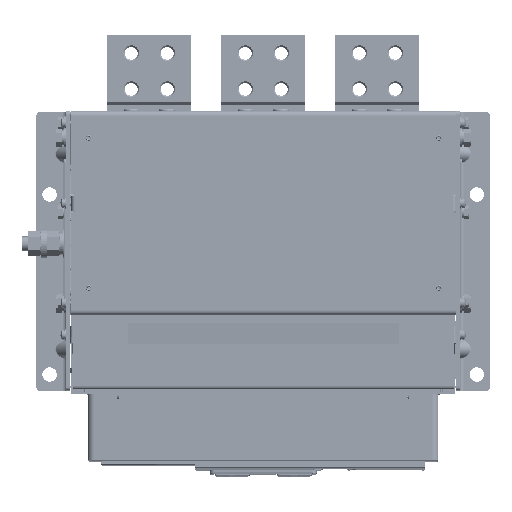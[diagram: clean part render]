
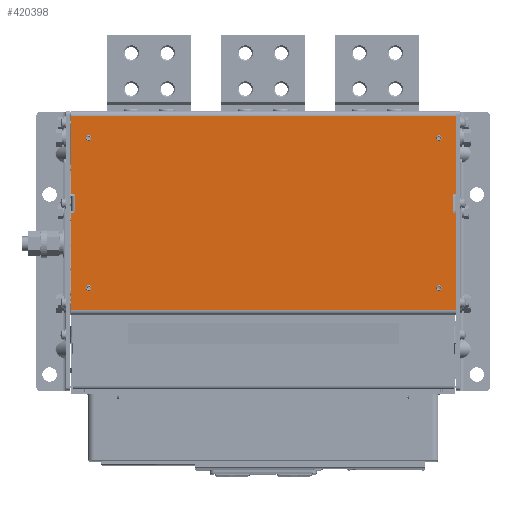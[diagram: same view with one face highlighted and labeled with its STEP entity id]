
A CAD part, top view. The second image highlights one B-rep face of the part: STEP entity #420398.
In plain terms, the highlighted planar face has unit normal (0, 0, 1).
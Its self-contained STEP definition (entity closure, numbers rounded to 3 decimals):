
#416684=CARTESIAN_POINT('',(206.,8.5,2.));
#416685=DIRECTION('',(0.,0.,1.));
#416686=DIRECTION('',(-1.,0.,0.));
#416687=AXIS2_PLACEMENT_3D('',#416684,#416685,#416686);
#416689=DIRECTION('',(1.,0.,0.));
#416690=VECTOR('',#416689,2.);
#416691=CARTESIAN_POINT('',(206.,7.5,2.));
#416692=LINE('',#416691,#416690);
#416693=DIRECTION('',(0.,-1.,0.));
#416694=VECTOR('',#416693,81.);
#416695=CARTESIAN_POINT('',(208.,7.5,2.));
#416696=LINE('',#416695,#416694);
#416697=DIRECTION('',(0.,1.,0.));
#416698=VECTOR('',#416697,81.);
#416699=CARTESIAN_POINT('',(-113.,-73.5,2.));
#416700=LINE('',#416699,#416698);
#416701=CARTESIAN_POINT('',(-111.,8.5,2.));
#416702=DIRECTION('',(0.,0.,1.));
#416703=DIRECTION('',(0.,-1.,0.));
#416704=AXIS2_PLACEMENT_3D('',#416701,#416702,#416703);
#416706=CARTESIAN_POINT('',(-111.,22.5,2.));
#416707=DIRECTION('',(0.,0.,1.));
#416708=DIRECTION('',(1.,0.,0.));
#416709=AXIS2_PLACEMENT_3D('',#416706,#416707,#416708);
#416711=DIRECTION('',(-1.,0.,0.));
#416712=VECTOR('',#416711,2.);
#416713=CARTESIAN_POINT('',(-111.,23.5,2.));
#416714=LINE('',#416713,#416712);
#416715=DIRECTION('',(0.,1.,0.));
#416716=VECTOR('',#416715,65.);
#416717=CARTESIAN_POINT('',(-113.,23.5,2.));
#416718=LINE('',#416717,#416716);
#416719=DIRECTION('',(0.,-1.,0.));
#416720=VECTOR('',#416719,65.);
#416721=CARTESIAN_POINT('',(208.,88.5,2.));
#416722=LINE('',#416721,#416720);
#416723=CARTESIAN_POINT('',(206.,22.5,2.));
#416724=DIRECTION('',(0.,0.,1.));
#416725=DIRECTION('',(0.,1.,0.));
#416726=AXIS2_PLACEMENT_3D('',#416723,#416724,#416725);
#416728=CARTESIAN_POINT('',(-98.5,-55.,2.));
#416729=DIRECTION('',(0.,0.,1.));
#416730=DIRECTION('',(-1.,0.,0.));
#416731=AXIS2_PLACEMENT_3D('',#416728,#416729,#416730);
#416733=CARTESIAN_POINT('',(-98.5,-55.,2.));
#416734=DIRECTION('',(0.,0.,1.));
#416735=DIRECTION('',(1.,0.,0.));
#416736=AXIS2_PLACEMENT_3D('',#416733,#416734,#416735);
#416738=CARTESIAN_POINT('',(193.5,-55.,2.));
#416739=DIRECTION('',(0.,0.,1.));
#416740=DIRECTION('',(-1.,0.,0.));
#416741=AXIS2_PLACEMENT_3D('',#416738,#416739,#416740);
#416743=CARTESIAN_POINT('',(193.5,-55.,2.));
#416744=DIRECTION('',(0.,0.,1.));
#416745=DIRECTION('',(1.,0.,0.));
#416746=AXIS2_PLACEMENT_3D('',#416743,#416744,#416745);
#416748=CARTESIAN_POINT('',(193.5,70.,2.));
#416749=DIRECTION('',(0.,0.,1.));
#416750=DIRECTION('',(-1.,0.,0.));
#416751=AXIS2_PLACEMENT_3D('',#416748,#416749,#416750);
#416753=CARTESIAN_POINT('',(193.5,70.,2.));
#416754=DIRECTION('',(0.,0.,1.));
#416755=DIRECTION('',(1.,0.,0.));
#416756=AXIS2_PLACEMENT_3D('',#416753,#416754,#416755);
#416758=CARTESIAN_POINT('',(-98.5,70.,2.));
#416759=DIRECTION('',(0.,0.,1.));
#416760=DIRECTION('',(-1.,0.,0.));
#416761=AXIS2_PLACEMENT_3D('',#416758,#416759,#416760);
#416763=CARTESIAN_POINT('',(-98.5,70.,2.));
#416764=DIRECTION('',(0.,0.,1.));
#416765=DIRECTION('',(1.,0.,0.));
#416766=AXIS2_PLACEMENT_3D('',#416763,#416764,#416765);
#416768=DIRECTION('',(0.,1.,0.));
#416769=VECTOR('',#416768,13.999);
#416770=CARTESIAN_POINT('',(205.,8.5,2.));
#416771=LINE('',#416770,#416769);
#416810=DIRECTION('',(1.,0.,0.));
#416811=VECTOR('',#416810,2.);
#416812=CARTESIAN_POINT('',(206.,23.5,2.));
#416813=LINE('',#416812,#416811);
#417001=DIRECTION('',(1.,0.,0.));
#417002=VECTOR('',#417001,321.);
#417003=CARTESIAN_POINT('',(-113.,-73.5,2.));
#417004=LINE('',#417003,#417002);
#417266=DIRECTION('',(-1.,0.,0.));
#417267=VECTOR('',#417266,321.);
#417268=CARTESIAN_POINT('',(208.,88.5,2.));
#417269=LINE('',#417268,#417267);
#418772=DIRECTION('',(0.,-1.,0.));
#418773=VECTOR('',#418772,13.999);
#418774=CARTESIAN_POINT('',(-110.,22.5,2.));
#418775=LINE('',#418774,#418773);
#418814=DIRECTION('',(-1.,0.,0.));
#418815=VECTOR('',#418814,2.);
#418816=CARTESIAN_POINT('',(-111.,7.5,2.));
#418817=LINE('',#418816,#418815);
#419133=CARTESIAN_POINT('',(-111.,7.5,2.));
#419134=CARTESIAN_POINT('',(-110.,8.501,2.));
#419135=VERTEX_POINT('',#419133);
#419136=VERTEX_POINT('',#419134);
#419137=CARTESIAN_POINT('',(-110.,22.5,2.));
#419138=VERTEX_POINT('',#419137);
#419139=CARTESIAN_POINT('',(-111.,23.5,2.));
#419140=VERTEX_POINT('',#419139);
#419161=CARTESIAN_POINT('',(-100.05,70.,2.));
#419162=CARTESIAN_POINT('',(-96.95,70.,2.));
#419163=VERTEX_POINT('',#419161);
#419164=VERTEX_POINT('',#419162);
#419167=CARTESIAN_POINT('',(-113.,23.5,2.));
#419168=VERTEX_POINT('',#419167);
#419171=CARTESIAN_POINT('',(-113.,7.5,2.));
#419172=VERTEX_POINT('',#419171);
#419193=CARTESIAN_POINT('',(-100.05,-55.,2.));
#419194=CARTESIAN_POINT('',(-96.95,-55.,2.));
#419195=VERTEX_POINT('',#419193);
#419196=VERTEX_POINT('',#419194);
#419245=CARTESIAN_POINT('',(206.,23.5,2.));
#419246=CARTESIAN_POINT('',(205.,22.499,2.));
#419247=VERTEX_POINT('',#419245);
#419248=VERTEX_POINT('',#419246);
#419249=CARTESIAN_POINT('',(205.,8.5,2.));
#419250=VERTEX_POINT('',#419249);
#419251=CARTESIAN_POINT('',(206.,7.5,2.));
#419252=VERTEX_POINT('',#419251);
#419273=CARTESIAN_POINT('',(191.95,70.,2.));
#419274=CARTESIAN_POINT('',(195.05,70.,2.));
#419275=VERTEX_POINT('',#419273);
#419276=VERTEX_POINT('',#419274);
#419279=CARTESIAN_POINT('',(-113.,88.5,2.));
#419280=VERTEX_POINT('',#419279);
#419281=CARTESIAN_POINT('',(-113.,-73.5,2.));
#419282=VERTEX_POINT('',#419281);
#419293=CARTESIAN_POINT('',(208.,7.5,2.));
#419294=CARTESIAN_POINT('',(208.,-73.5,2.));
#419295=VERTEX_POINT('',#419293);
#419296=VERTEX_POINT('',#419294);
#419297=CARTESIAN_POINT('',(208.,88.5,2.));
#419298=CARTESIAN_POINT('',(208.,23.5,2.));
#419299=VERTEX_POINT('',#419297);
#419300=VERTEX_POINT('',#419298);
#419337=CARTESIAN_POINT('',(191.95,-55.,2.));
#419338=CARTESIAN_POINT('',(195.05,-55.,2.));
#419339=VERTEX_POINT('',#419337);
#419340=VERTEX_POINT('',#419338);
#420336=CARTESIAN_POINT('',(0.,0.,2.));
#420337=DIRECTION('',(0.,0.,1.));
#420338=DIRECTION('',(1.,0.,0.));
#420339=AXIS2_PLACEMENT_3D('',#420336,#420337,#420338);
#420340=PLANE('',#420339);
#420342=ORIENTED_EDGE('',*,*,#420341,.F.);
#420344=ORIENTED_EDGE('',*,*,#420343,.T.);
#420346=ORIENTED_EDGE('',*,*,#420345,.T.);
#420348=ORIENTED_EDGE('',*,*,#420347,.T.);
#420350=ORIENTED_EDGE('',*,*,#420349,.F.);
#420351=ORIENTED_EDGE('',*,*,#420321,.T.);
#420353=ORIENTED_EDGE('',*,*,#420352,.F.);
#420355=ORIENTED_EDGE('',*,*,#420354,.T.);
#420357=ORIENTED_EDGE('',*,*,#420356,.F.);
#420359=ORIENTED_EDGE('',*,*,#420358,.T.);
#420361=ORIENTED_EDGE('',*,*,#420360,.T.);
#420363=ORIENTED_EDGE('',*,*,#420362,.T.);
#420365=ORIENTED_EDGE('',*,*,#420364,.F.);
#420367=ORIENTED_EDGE('',*,*,#420366,.T.);
#420369=ORIENTED_EDGE('',*,*,#420368,.F.);
#420371=ORIENTED_EDGE('',*,*,#420370,.T.);
#420372=EDGE_LOOP('',(#420342,#420344,#420346,#420348,#420350,#420351,#420353,
#420355,#420357,#420359,#420361,#420363,#420365,#420367,#420369,#420371));
#420373=FACE_OUTER_BOUND('',#420372,.F.);
#420375=ORIENTED_EDGE('',*,*,#420374,.T.);
#420377=ORIENTED_EDGE('',*,*,#420376,.T.);
#420378=EDGE_LOOP('',(#420375,#420377));
#420379=FACE_BOUND('',#420378,.F.);
#420381=ORIENTED_EDGE('',*,*,#420380,.T.);
#420383=ORIENTED_EDGE('',*,*,#420382,.T.);
#420384=EDGE_LOOP('',(#420381,#420383));
#420385=FACE_BOUND('',#420384,.F.);
#420387=ORIENTED_EDGE('',*,*,#420386,.T.);
#420389=ORIENTED_EDGE('',*,*,#420388,.T.);
#420390=EDGE_LOOP('',(#420387,#420389));
#420391=FACE_BOUND('',#420390,.F.);
#420393=ORIENTED_EDGE('',*,*,#420392,.T.);
#420395=ORIENTED_EDGE('',*,*,#420394,.T.);
#420396=EDGE_LOOP('',(#420393,#420395));
#420397=FACE_BOUND('',#420396,.F.);
#420398=ADVANCED_FACE('',(#420373,#420379,#420385,#420391,#420397),#420340,.T.);
#416688=CIRCLE('',#416687,1.);
#416705=CIRCLE('',#416704,1.);
#416710=CIRCLE('',#416709,1.);
#416727=CIRCLE('',#416726,1.);
#416732=CIRCLE('',#416731,1.55);
#416737=CIRCLE('',#416736,1.55);
#416742=CIRCLE('',#416741,1.55);
#416747=CIRCLE('',#416746,1.55);
#416752=CIRCLE('',#416751,1.55);
#416757=CIRCLE('',#416756,1.55);
#416762=CIRCLE('',#416761,1.55);
#416767=CIRCLE('',#416766,1.55);
#420321=EDGE_CURVE('',#419282,#419172,#416700,.T.);
#420341=EDGE_CURVE('',#419250,#419248,#416771,.T.);
#420343=EDGE_CURVE('',#419250,#419252,#416688,.T.);
#420345=EDGE_CURVE('',#419252,#419295,#416692,.T.);
#420347=EDGE_CURVE('',#419295,#419296,#416696,.T.);
#420349=EDGE_CURVE('',#419282,#419296,#417004,.T.);
#420352=EDGE_CURVE('',#419135,#419172,#418817,.T.);
#420354=EDGE_CURVE('',#419135,#419136,#416705,.T.);
#420356=EDGE_CURVE('',#419138,#419136,#418775,.T.);
#420358=EDGE_CURVE('',#419138,#419140,#416710,.T.);
#420360=EDGE_CURVE('',#419140,#419168,#416714,.T.);
#420362=EDGE_CURVE('',#419168,#419280,#416718,.T.);
#420364=EDGE_CURVE('',#419299,#419280,#417269,.T.);
#420366=EDGE_CURVE('',#419299,#419300,#416722,.T.);
#420368=EDGE_CURVE('',#419247,#419300,#416813,.T.);
#420370=EDGE_CURVE('',#419247,#419248,#416727,.T.);
#420374=EDGE_CURVE('',#419195,#419196,#416732,.T.);
#420376=EDGE_CURVE('',#419196,#419195,#416737,.T.);
#420380=EDGE_CURVE('',#419339,#419340,#416742,.T.);
#420382=EDGE_CURVE('',#419340,#419339,#416747,.T.);
#420386=EDGE_CURVE('',#419275,#419276,#416752,.T.);
#420388=EDGE_CURVE('',#419276,#419275,#416757,.T.);
#420392=EDGE_CURVE('',#419163,#419164,#416762,.T.);
#420394=EDGE_CURVE('',#419164,#419163,#416767,.T.);
